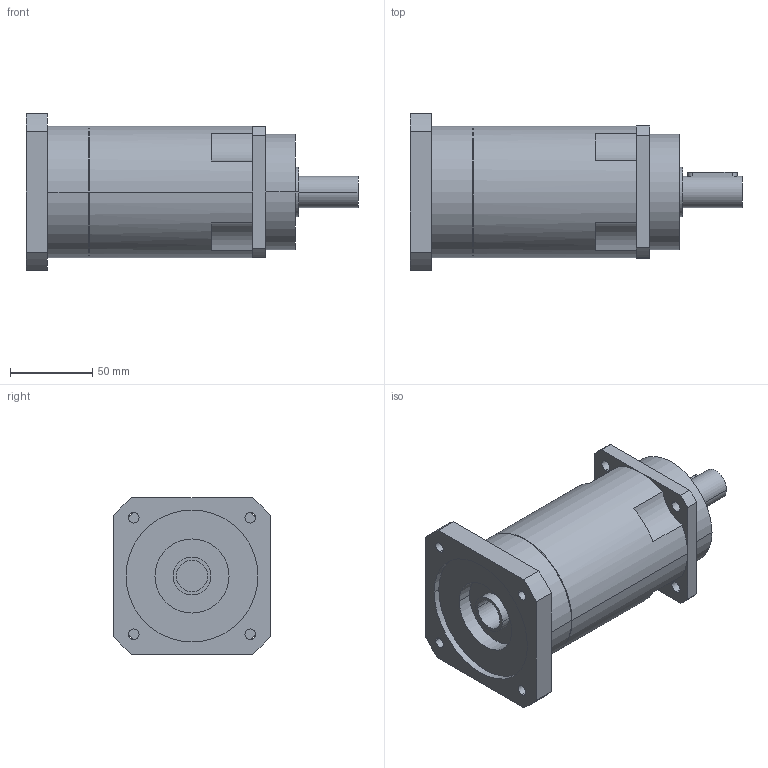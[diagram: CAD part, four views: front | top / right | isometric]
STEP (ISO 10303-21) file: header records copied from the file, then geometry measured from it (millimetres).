
FILE_DESCRIPTION(('CoCreate Modeling STEP Export'),'2;1');
FILE_NAME('GPR100_ig-48-64-80-100-120-144-180-216_19_B5_19_P06.stp','2014-08-26T11:56:46',(''),(''),'CoCreate Modeling STEP processor for AP214 (Solid Model)','CoCreate Modeling 16.00C 25-Feb-2009 (C) Parametric Technology GmbH','');
FILE_SCHEMA(('AUTOMOTIVE_DESIGN { 1 0 10303 214 1 1 1 1 }'));
Length unit declared in the file: millimetre
Products named in the file (2): GPR100_ig-48-64-80-100-120-144-180-216_19_B5_19_P06
Assembly tree (1 placements, depth 2):
  GPR100_ig-48-64-80-100-120-144-180-216_19_B5_19_P06
    GPR100_ig-48-64-80-100-120-144-180-216_19_B5_19_P06
Bounding box: 201.4 x 95 x 95 mm (x, y, z)
Volume: 818116.7 mm3; surface area: 72265.2 mm2
Topology: 1 solids, 1 shells, 86 faces, 242 edges, 166 vertices
Faces by surface type: cylinder 50, plane 30, cone 6
Entity records: 2552 total; most frequent: ORIENTED_EDGE 480, CARTESIAN_POINT 465, DIRECTION 376, EDGE_CURVE 240, VERTEX_POINT 166, AXIS2_PLACEMENT_3D 141, EDGE_LOOP 112, VECTOR 94
